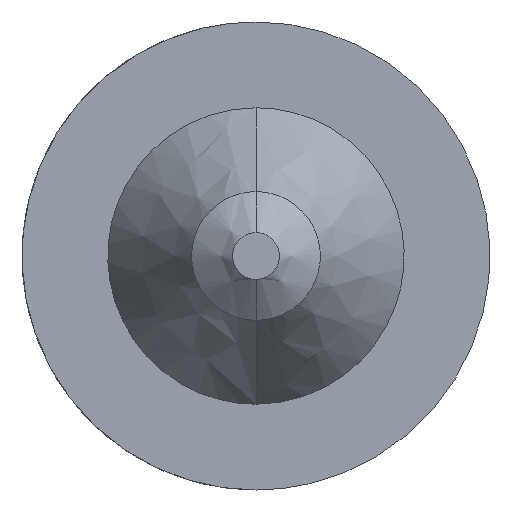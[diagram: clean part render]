
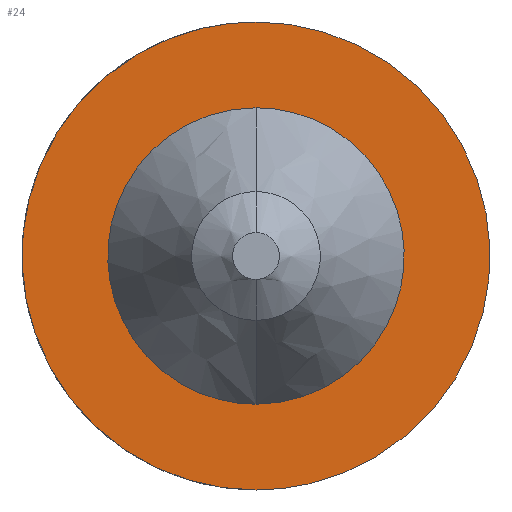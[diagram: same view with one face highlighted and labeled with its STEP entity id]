
A CAD part, front view. The second image highlights one B-rep face of the part: STEP entity #24.
In plain terms, the highlighted planar face has unit normal (0, -1, 0).
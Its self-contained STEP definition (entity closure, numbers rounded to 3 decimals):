
#14=FACE_BOUND('',#57,.T.);
#24=ADVANCED_FACE('',(#40,#14),#205,.T.);
#40=FACE_OUTER_BOUND('',#56,.T.);
#56=EDGE_LOOP('',(#96,#97));
#57=EDGE_LOOP('',(#98,#99));
#96=ORIENTED_EDGE('',*,*,#145,.F.);
#97=ORIENTED_EDGE('',*,*,#148,.F.);
#98=ORIENTED_EDGE('',*,*,#149,.T.);
#99=ORIENTED_EDGE('',*,*,#140,.F.);
#140=EDGE_CURVE('',#198,#199,#174,.T.);
#145=EDGE_CURVE('',#202,#203,#176,.T.);
#148=EDGE_CURVE('',#203,#202,#178,.T.);
#149=EDGE_CURVE('',#198,#199,#179,.T.);
#174=(
BOUNDED_CURVE()
B_SPLINE_CURVE(2,(#516,#517,#518,#519,#520),.UNSPECIFIED.,.F.,.F.)
B_SPLINE_CURVE_WITH_KNOTS((3,2,3),(0.,3.613,7.226),
 .UNSPECIFIED.)
CURVE()
GEOMETRIC_REPRESENTATION_ITEM()
RATIONAL_B_SPLINE_CURVE((1.,0.707,1.,0.707,1.))
REPRESENTATION_ITEM('')
);
#176=(
BOUNDED_CURVE()
B_SPLINE_CURVE(2,(#532,#533,#534,#535,#536),.UNSPECIFIED.,.F.,.F.)
B_SPLINE_CURVE_WITH_KNOTS((3,2,3),(0.,9.425,18.85),
 .UNSPECIFIED.)
CURVE()
GEOMETRIC_REPRESENTATION_ITEM()
RATIONAL_B_SPLINE_CURVE((1.,0.707,1.,0.707,1.))
REPRESENTATION_ITEM('')
);
#178=(
BOUNDED_CURVE()
B_SPLINE_CURVE(2,(#544,#545,#546,#547,#548),.UNSPECIFIED.,.F.,.F.)
B_SPLINE_CURVE_WITH_KNOTS((3,2,3),(0.,9.425,18.85),
 .UNSPECIFIED.)
CURVE()
GEOMETRIC_REPRESENTATION_ITEM()
RATIONAL_B_SPLINE_CURVE((1.,0.707,1.,0.707,1.))
REPRESENTATION_ITEM('')
);
#179=(
BOUNDED_CURVE()
B_SPLINE_CURVE(2,(#549,#550,#551,#552,#553),.UNSPECIFIED.,.F.,.F.)
B_SPLINE_CURVE_WITH_KNOTS((3,2,3),(-7.226,-3.613,
0.),.UNSPECIFIED.)
CURVE()
GEOMETRIC_REPRESENTATION_ITEM()
RATIONAL_B_SPLINE_CURVE((1.,0.707,1.,0.707,1.))
REPRESENTATION_ITEM('')
);
#198=VERTEX_POINT('',#464);
#199=VERTEX_POINT('',#465);
#202=VERTEX_POINT('',#468);
#203=VERTEX_POINT('',#469);
#205=PLANE('',#313);
#313=AXIS2_PLACEMENT_3D('',#393,#326,$);
#326=DIRECTION('',(0.,-1.,0.));
#393=CARTESIAN_POINT('',(-7.2,4.5,7.2));
#464=CARTESIAN_POINT('',(0.,4.5,-2.3));
#465=CARTESIAN_POINT('',(0.,4.5,2.3));
#468=CARTESIAN_POINT('',(0.,4.5,6.));
#469=CARTESIAN_POINT('',(0.,4.5,-6.));
#516=CARTESIAN_POINT('',(0.,4.5,-2.3));
#517=CARTESIAN_POINT('',(2.3,4.5,-2.3));
#518=CARTESIAN_POINT('',(2.3,4.5,0.));
#519=CARTESIAN_POINT('',(2.3,4.5,2.3));
#520=CARTESIAN_POINT('',(0.,4.5,2.3));
#532=CARTESIAN_POINT('',(0.,4.5,6.));
#533=CARTESIAN_POINT('',(6.,4.5,6.));
#534=CARTESIAN_POINT('',(6.,4.5,0.));
#535=CARTESIAN_POINT('',(6.,4.5,-6.));
#536=CARTESIAN_POINT('',(0.,4.5,-6.));
#544=CARTESIAN_POINT('',(0.,4.5,-6.));
#545=CARTESIAN_POINT('',(-6.,4.5,-6.));
#546=CARTESIAN_POINT('',(-6.,4.5,0.));
#547=CARTESIAN_POINT('',(-6.,4.5,6.));
#548=CARTESIAN_POINT('',(0.,4.5,6.));
#549=CARTESIAN_POINT('',(0.,4.5,-2.3));
#550=CARTESIAN_POINT('',(-2.3,4.5,-2.3));
#551=CARTESIAN_POINT('',(-2.3,4.5,0.));
#552=CARTESIAN_POINT('',(-2.3,4.5,2.3));
#553=CARTESIAN_POINT('',(0.,4.5,2.3));
